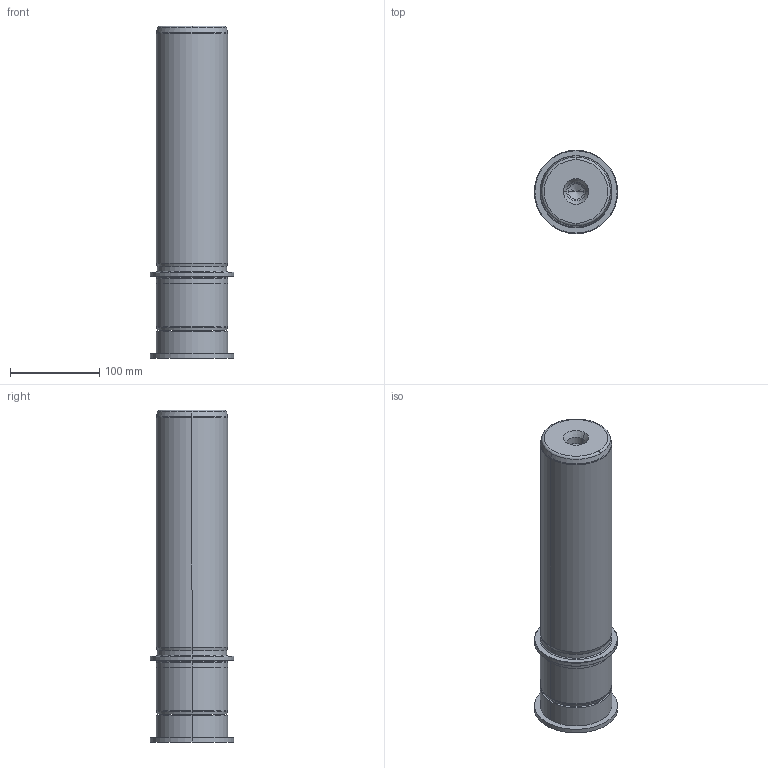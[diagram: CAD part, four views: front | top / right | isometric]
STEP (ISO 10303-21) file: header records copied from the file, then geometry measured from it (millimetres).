
FILE_DESCRIPTION((''),'2;1');
FILE_NAME('P22_080_280.stp','2009-02-03T10:15:48',(''),(''),'Mechanical Desktop 2009','Mechanical Desktop 2009',', , ');
FILE_SCHEMA(('CONFIG_CONTROL_DESIGN'));
Length unit declared in the file: millimetre
Products named in the file (2): Product; blmdl1
Assembly tree (1 placements, depth 2):
  Product
    blmdl1
Bounding box: 93 x 93 x 371 mm (x, y, z)
Volume: 1848899.3 mm3; surface area: 134427.3 mm2
Topology: 3 solids, 3 shells, 99 faces, 237 edges, 149 vertices
Faces by surface type: cylinder 32, cone 28, plane 19, torus 10, bspline 10
Entity records: 3419 total; most frequent: CARTESIAN_POINT 923, DIRECTION 570, ORIENTED_EDGE 466, AXIS2_PLACEMENT_3D 246, EDGE_CURVE 233, CIRCLE 155, VERTEX_POINT 149, EDGE_LOOP 110
